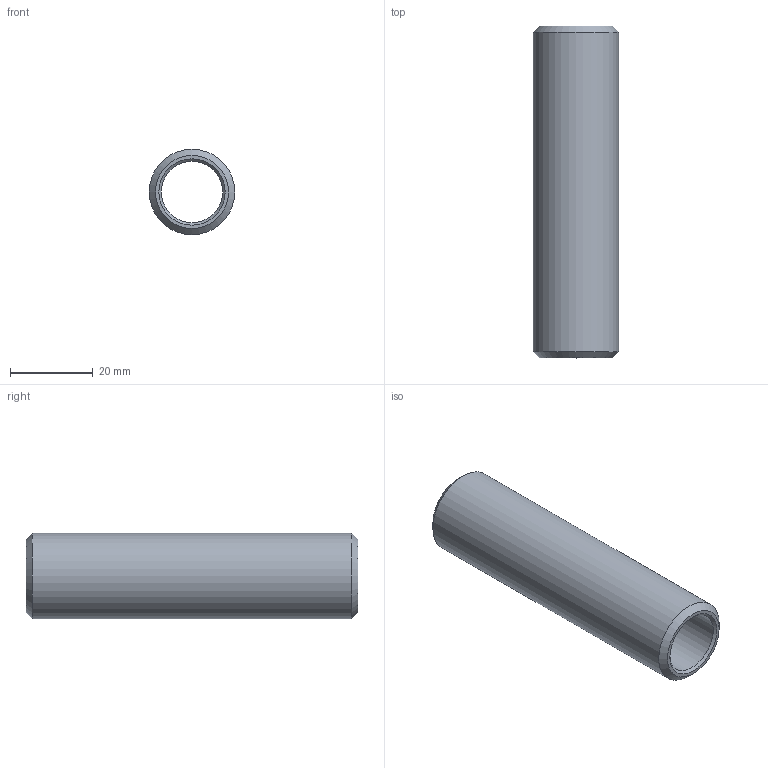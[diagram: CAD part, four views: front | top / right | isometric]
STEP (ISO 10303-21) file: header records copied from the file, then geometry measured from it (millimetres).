
FILE_DESCRIPTION(('STEP AP203'), '1');
FILE_NAME('ÂÐ.715241.003 - VTr.652.N.0408 Áî÷. ðåçüá. G1-2 L80', '2024-07-11T08:34:09', ('User'), ('Vesta'), 'C3D Converter', 'C3D Toolkit', '');
FILE_SCHEMA(('CONFIG_CONTROL_DESIGN'));
Length unit declared in the file: millimetre
Products named in the file (1): ВР.715241.003
Bounding box: 20.6 x 80 x 20.6 mm (x, y, z)
Volume: 12744.9 mm3; surface area: 9068.2 mm2
Topology: 1 solids, 1 shells, 8 faces, 14 edges, 8 vertices
Faces by surface type: cone 4, plane 2, cylinder 2
Full cylindrical faces by diameter (mm): 14.8 x1, 20.6 x1
Entity records: 199 total; most frequent: DIRECTION 34, CARTESIAN_POINT 25, AXIS2_PLACEMENT_3D 17, EDGE_LOOP 16, ORIENTED_EDGE 16, FACE_OUTER_BOUND 12, ADVANCED_FACE 8, EDGE_CURVE 8
